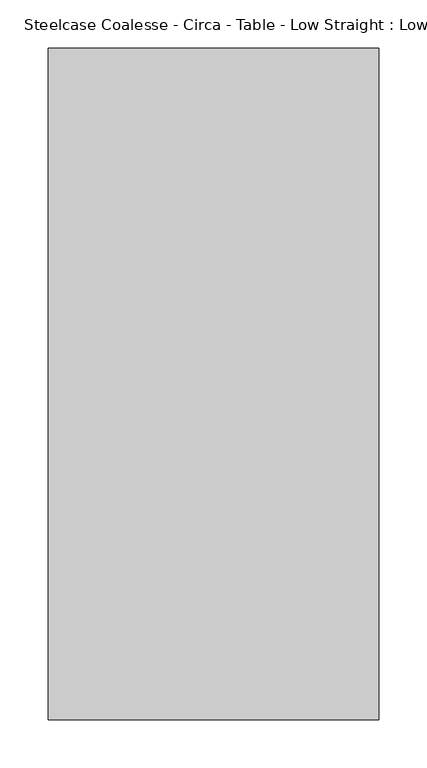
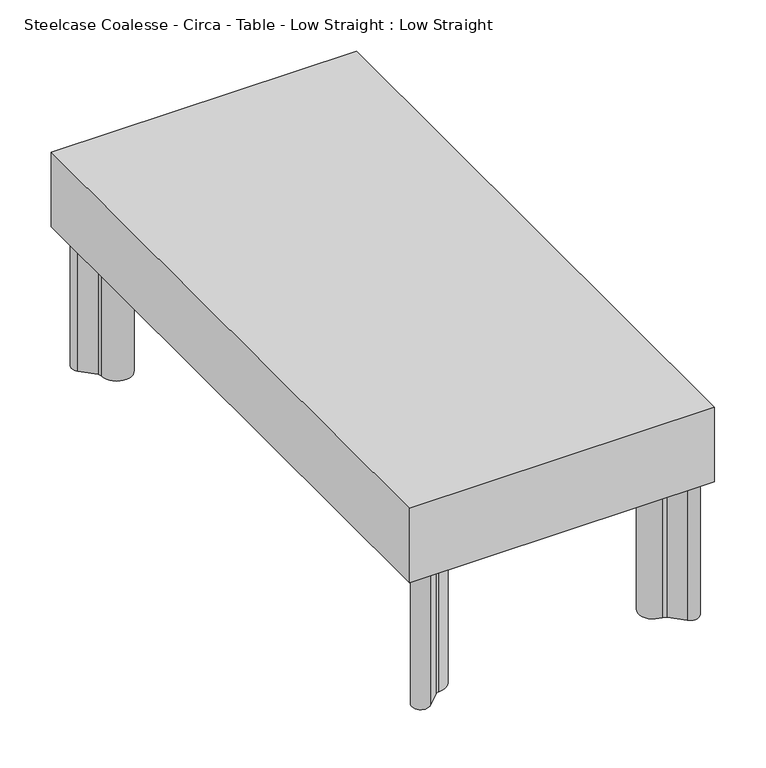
"""IFC4 building model written with IfcOpenShell, lengths in millimetres: furniture geometry, Steelcase Coalesse - Circa - Table - Low Straight : Low Straight."""

from ifc_helpers import new_model, si_unit, point, frame, frame_2d, origin, origin_with_axes, place, context, project, spatial, polyline, circle_curve, trimmed, segment, composite_curve, outline, extrude, source, transform, mapped, element, save


def steelcase_coalesse_circa_table_low_straight_low_straight_40700df2(model_context):
    return source(origin(), model_context, "Body", "SweptSolid", [
        extrude(outline(composite_curve([segment(polyline([(-622.0187353, -461.1203659), (-636.3701849, -475.4654206)]), True, "CONTINUOUS"), segment(trimmed(circle_curve(frame_2d((-643.4361291, -468.3963264)), 9.9949818), [point((-636.3701849, -475.4654206))], [point((-650.5055096, -461.3306686))], False, "CARTESIAN"), True, "CONTINUOUS"), segment(polyline([(-650.5055096, -461.3306686), (-636.1608953, -446.9784966)]), True, "CONTINUOUS"), segment(trimmed(circle_curve(frame_2d((-640.9600075, -442.517141)), 6.5524935), [point((-636.1608953, -446.9784966))], [point((-634.407514, -442.517141))], True, "CARTESIAN"), True, "CONTINUOUS"), segment(trimmed(circle_curve(frame_2d((-617.5573797, -442.517141)), 16.8501343), [point((-634.407514, -442.517141))], [point((-617.5573797, -459.3672753))], False, "CARTESIAN"), True, "CONTINUOUS"), segment(trimmed(circle_curve(frame_2d((-617.5573797, -465.9205646)), 6.5532893), [point((-617.5573797, -459.3672753))], [point((-622.0187353, -461.1203659))], True, "CARTESIAN"), True, "CONTINUOUS")], self_intersect=False)), origin_with_axes(), (0.0, 0.0, 1.0), 159.258),
        extrude(outline(composite_curve([segment(trimmed(circle_curve(frame_2d((-617.5573797, 192.2164095)), 6.5532893), [point((-622.0187353, 187.4162109))], [point((-617.5573797, 185.6631202))], True, "CARTESIAN"), True, "CONTINUOUS"), segment(trimmed(circle_curve(frame_2d((-617.5573797, 168.8129859)), 16.8501343), [point((-617.5573797, 185.6631202))], [point((-634.407514, 168.8129859))], False, "CARTESIAN"), True, "CONTINUOUS"), segment(trimmed(circle_curve(frame_2d((-640.9600075, 168.8129859)), 6.5524935), [point((-634.407514, 168.8129859))], [point((-636.1608953, 173.2743415))], True, "CARTESIAN"), True, "CONTINUOUS"), segment(polyline([(-636.1608953, 173.2743415), (-650.5055096, 187.6265135)]), True, "CONTINUOUS"), segment(trimmed(circle_curve(frame_2d((-643.4361291, 194.6921713)), 9.9949818), [point((-650.5055096, 187.6265135))], [point((-636.3701849, 201.7612655))], False, "CARTESIAN"), True, "CONTINUOUS"), segment(polyline([(-636.3701849, 201.7612655), (-622.0187353, 187.4162109)]), True, "CONTINUOUS")], self_intersect=False)), origin_with_axes(), (0.0, 0.0, 1.0), 159.258),
        extrude(outline(composite_curve([segment(polyline([(-361.9997228, 187.4162109), (-347.6482732, 201.7612655)]), True, "CONTINUOUS"), segment(trimmed(circle_curve(frame_2d((-340.582329, 194.6921713)), 9.9949818), [point((-347.6482732, 201.7612655))], [point((-333.5129485, 187.6265135))], False, "CARTESIAN"), True, "CONTINUOUS"), segment(polyline([(-333.5129485, 187.6265135), (-347.8575628, 173.2743415)]), True, "CONTINUOUS"), segment(trimmed(circle_curve(frame_2d((-343.0584506, 168.8129859)), 6.5524935), [point((-347.8575628, 173.2743415))], [point((-349.6109441, 168.8129859))], True, "CARTESIAN"), True, "CONTINUOUS"), segment(trimmed(circle_curve(frame_2d((-366.4610784, 168.8129859)), 16.8501343), [point((-349.6109441, 168.8129859))], [point((-366.4610784, 185.6631202))], False, "CARTESIAN"), True, "CONTINUOUS"), segment(trimmed(circle_curve(frame_2d((-366.4610784, 192.2164095)), 6.5532893), [point((-366.4610784, 185.6631202))], [point((-361.9997228, 187.4162109))], True, "CARTESIAN"), True, "CONTINUOUS")], self_intersect=False)), origin_with_axes(), (0.0, 0.0, 1.0), 159.258),
        extrude(outline(composite_curve([segment(trimmed(circle_curve(frame_2d((-366.4610784, -465.9205646)), 6.5532893), [point((-361.9997228, -461.1203659))], [point((-366.4610784, -459.3672753))], True, "CARTESIAN"), True, "CONTINUOUS"), segment(trimmed(circle_curve(frame_2d((-366.4610784, -442.517141)), 16.8501343), [point((-366.4610784, -459.3672753))], [point((-349.6109441, -442.517141))], False, "CARTESIAN"), True, "CONTINUOUS"), segment(trimmed(circle_curve(frame_2d((-343.0584506, -442.517141)), 6.5524935), [point((-349.6109441, -442.517141))], [point((-347.8575628, -446.9784966))], True, "CARTESIAN"), True, "CONTINUOUS"), segment(polyline([(-347.8575628, -446.9784966), (-333.5129485, -461.3306686)]), True, "CONTINUOUS"), segment(trimmed(circle_curve(frame_2d((-340.582329, -468.3963264)), 9.9949818), [point((-333.5129485, -461.3306686))], [point((-347.6482732, -475.4654206))], False, "CARTESIAN"), True, "CONTINUOUS"), segment(polyline([(-347.6482732, -475.4654206), (-361.9997228, -461.1203659)]), True, "CONTINUOUS")], self_intersect=False)), origin_with_axes(), (0.0, 0.0, 1.0), 159.258),
        extrude(outline(polyline([(-663.917922, 216.2403236), (-320.559229, 216.2403236), (-320.559229, -481.8179398), (-663.917922, -481.8179398), (-663.917922, 216.2403236)])), frame((0.0, 0.0, 159.258), z_axis=(0.0, 0.0, 1.0), x_axis=(1.0, 0.0, 0.0)), (0.0, 0.0, 1.0), 88.3365866),
    ])


if __name__ == "__main__":
    model = new_model("IFC4")
    model_context = context("Model", 3, world=origin())
    ifc_project = project(units=[si_unit("LENGTHUNIT", "METRE", prefix="MILLI")], contexts=[model_context])
    site = spatial("IfcSite", under=ifc_project)
    building = spatial("IfcBuilding", under=site)
    placement = place(None, origin())
    steelcase_coalesse_circa_table_low_straight_low_straight_shape = steelcase_coalesse_circa_table_low_straight_low_straight_40700df2(model_context)
    element("IfcFurniture", 1, ObjectType="Steelcase Coalesse - Circa - Table - Low Straight : Low Straight", at=placement, inside=building, context=model_context, shape_type="MappedRepresentation", body=[
        mapped(steelcase_coalesse_circa_table_low_straight_low_straight_shape, transform((0.0, 0.0, 0.0), x_axis=(1.0, 0.0, 0.0), y_axis=(0.0, 1.0, 0.0), z_axis=(0.0, 0.0, 1.0))),
    ])
    save(model, "model.ifc")
